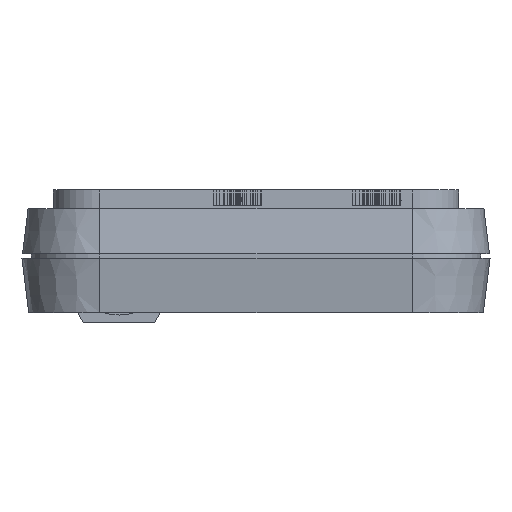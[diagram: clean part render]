
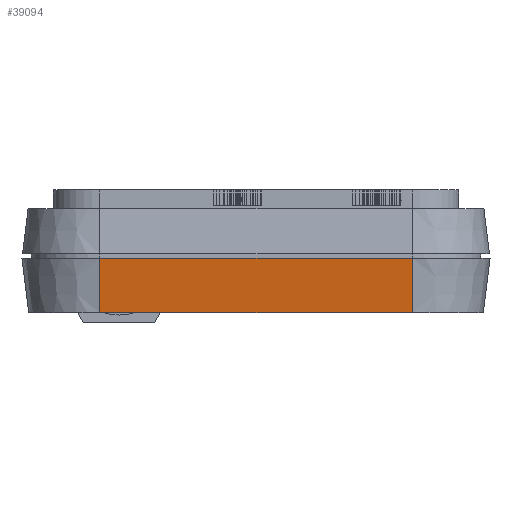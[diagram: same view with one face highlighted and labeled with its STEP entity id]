
A CAD part, left-side view. The second image highlights one B-rep face of the part: STEP entity #39094.
In plain terms, the highlighted planar face has unit normal (-0.993, 0, -0.122).
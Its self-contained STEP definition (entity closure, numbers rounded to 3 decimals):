
#1004=DIRECTION('',(0.,-1.,0.));
#1005=VECTOR('',#1004,20.1);
#1006=CARTESIAN_POINT('',(-52.55,10.05,-3.2));
#1007=LINE('',#1006,#1005);
#1011=DIRECTION('',(0.122,0.,-0.993));
#1012=VECTOR('',#1011,3.526);
#1013=CARTESIAN_POINT('',(-52.55,-10.05,-3.2));
#1014=LINE('',#1013,#1012);
#1018=DIRECTION('',(0.122,0.,-0.993));
#1019=VECTOR('',#1018,3.526);
#1020=CARTESIAN_POINT('',(-52.55,10.05,-3.2));
#1021=LINE('',#1020,#1019);
#1115=DIRECTION('',(0.,-1.,0.));
#1116=VECTOR('',#1115,20.1);
#1117=CARTESIAN_POINT('',(-52.12,10.05,-6.7));
#1118=LINE('',#1117,#1116);
#37838=CARTESIAN_POINT('',(-52.12,-10.05,-6.7));
#37840=VERTEX_POINT('',#37838);
#37845=CARTESIAN_POINT('',(-52.12,10.05,-6.7));
#37847=VERTEX_POINT('',#37845);
#37869=CARTESIAN_POINT('',(-52.55,10.05,-3.2));
#37870=CARTESIAN_POINT('',(-52.55,-10.05,-3.2));
#37871=VERTEX_POINT('',#37869);
#37872=VERTEX_POINT('',#37870);
#39081=CARTESIAN_POINT('',(-52.55,10.05,-3.2));
#39082=DIRECTION('',(-0.993,0.,-0.122));
#39083=DIRECTION('',(0.,-1.,0.));
#39084=AXIS2_PLACEMENT_3D('',#39081,#39082,#39083);
#39085=PLANE('',#39084);
#39086=ORIENTED_EDGE('',*,*,#38994,.T.);
#39088=ORIENTED_EDGE('',*,*,#39087,.T.);
#39090=ORIENTED_EDGE('',*,*,#39089,.F.);
#39091=ORIENTED_EDGE('',*,*,#39073,.F.);
#39092=EDGE_LOOP('',(#39086,#39088,#39090,#39091));
#39093=FACE_OUTER_BOUND('',#39092,.F.);
#38994=EDGE_CURVE('',#37871,#37872,#1007,.T.);
#39073=EDGE_CURVE('',#37871,#37847,#1021,.T.);
#39087=EDGE_CURVE('',#37872,#37840,#1014,.T.);
#39089=EDGE_CURVE('',#37847,#37840,#1118,.T.);
#39094=ADVANCED_FACE('',(#39093),#39085,.T.);
